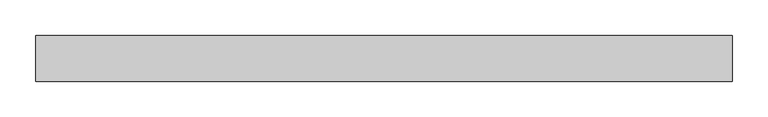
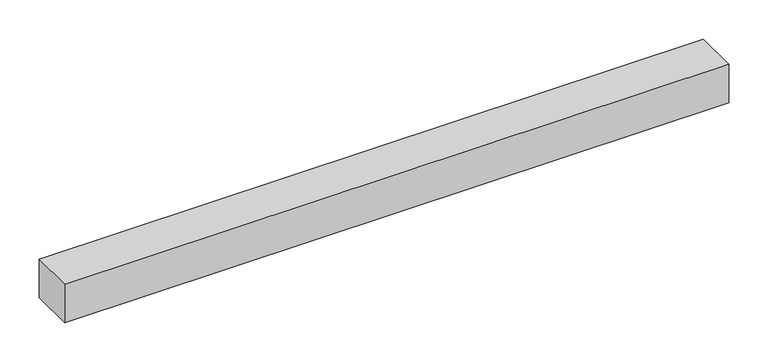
"""IFC4 building model written with IfcOpenShell, lengths in millimetres: light fixture geometry, GENILED_Светильник светодиодный_Trade Linear Advanced : Trade Linear Advanced 980x65x60 20Вт Deep Черный 4000К."""

from ifc_helpers import new_model, si_unit, frame, origin, place, context, project, spatial, polyline, outline, extrude, source, transform, mapped, element, save


def light_fixture_045715e0(model_context):
    return source(origin(), model_context, "Body", "SweptSolid", [
        extrude(outline(polyline([(490.0, 32.5), (490.0, -32.5), (-490.0, -32.5), (-490.0, 32.5), (490.0, 32.5)])), frame((0.0, 0.0, -60.0), z_axis=(0.0, 0.0, 1.0), x_axis=(1.0, 0.0, 0.0)), (0.0, 0.0, 1.0), 60.0),
    ])


if __name__ == "__main__":
    model = new_model("IFC4")
    model_context = context("Model", 3, world=origin())
    ifc_project = project(units=[si_unit("LENGTHUNIT", "METRE", prefix="MILLI")], contexts=[model_context])
    site = spatial("IfcSite", under=ifc_project)
    building = spatial("IfcBuilding", under=site)
    placement = place(None, origin())
    light_fixture_shape = light_fixture_045715e0(model_context)
    element("IfcLightFixture", 1, ObjectType="GENILED_Светильник светодиодный_Trade Linear Advanced : Trade Linear Advanced 980x65x60 20Вт Deep Черный 4000К", at=placement, inside=building, context=model_context, shape_type="MappedRepresentation", body=[
        mapped(light_fixture_shape, transform((0.0, 0.0, 0.0), x_axis=(1.0, 0.0, 0.0), y_axis=(0.0, 1.0, 0.0), z_axis=(0.0, 0.0, 1.0))),
    ])
    save(model, "model.ifc")
